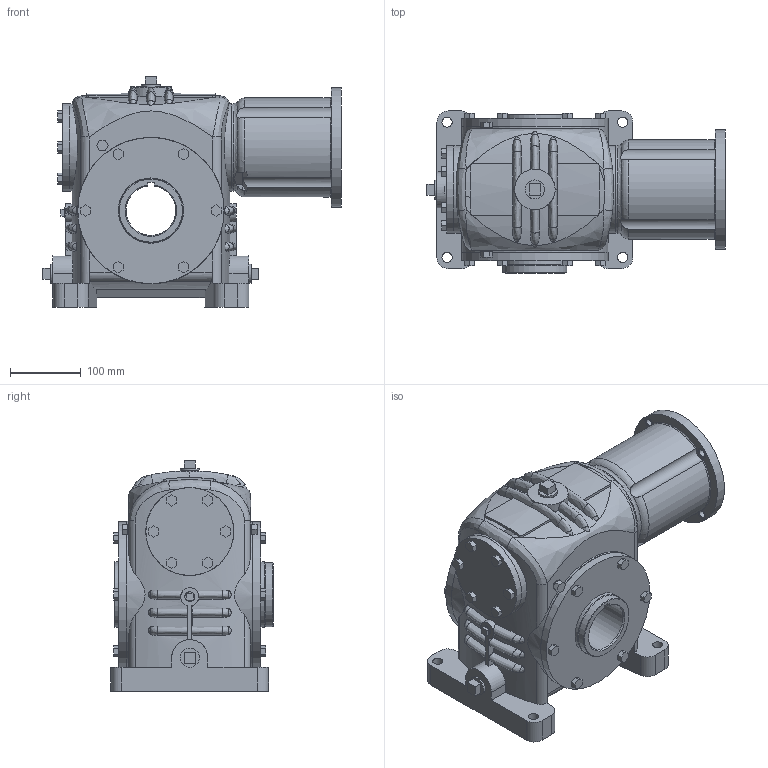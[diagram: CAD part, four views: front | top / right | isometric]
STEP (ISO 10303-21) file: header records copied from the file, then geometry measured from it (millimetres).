
FILE_DESCRIPTION(/* description */ ('Unknown'),/* implementation_level */ '2;1');
FILE_NAME(/* name */ 'HO-35-1-QBNG010',/* time_stamp */ '2024-11-21T09:44:06-05:00',/* author */ ('Unknown'),/* organization */ ('Unknown'),/* preprocessor_version */ 'ST-DEVELOPER v19.4',/* originating_system */ 'Solid Edge',/* authorisation */ 'Unknown');
FILE_SCHEMA (('AUTOMOTIVE_DESIGN {1 0 10303 214 3 1 1}'));
Length unit declared in the file: millimetre
Products named in the file (6): HO-35-1-QBNG010; 35-1-CP; 35-OUTHS-2750; 35-OUTH-2750; 35-MTR45-56C; 35-WCAP
Assembly tree (5 placements, depth 2):
  HO-35-1-QBNG010
    35-1-CP
    35-OUTHS-2750
    35-OUTH-2750
    35-MTR45-56C
    35-WCAP
Bounding box: 420.67 x 228.6 x 325.31 mm (x, y, z)
Volume: 11812555.6 mm3; surface area: 881303.2 mm2
Topology: 5 solids, 5 shells, 536 faces, 1351 edges, 896 vertices
Faces by surface type: plane 320, cylinder 122, bspline 62, torus 17, cone 15
Full cylindrical faces by diameter (mm): 0.254 x7, 7.62 x1, 10.319 x4, 12.7 x7, 14.287 x10, 15.081 x4, 30.15 x1, 63.5 x1, 65.024 x1, 90.424 x2, 90.932 x1, 92.075 x3, 92.583 x1, 101.6 x1, 102.108 x1, 114.338 x1, 123.825 x1, 123.952 x3, 168.148 x1, 206.248 x2, 206.375 x2
Entity records: 21250 total; most frequent: CARTESIAN_POINT 7360, ORIENTED_EDGE 2502, DIRECTION 2212, EDGE_CURVE 1251, VERTEX_POINT 870, AXIS2_PLACEMENT_3D 743, LINE 726, VECTOR 726
